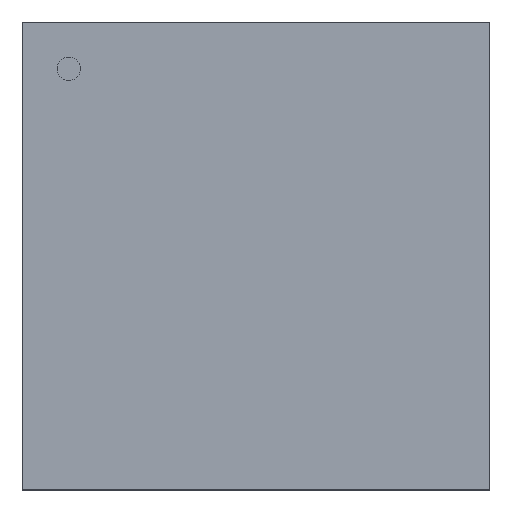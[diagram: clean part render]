
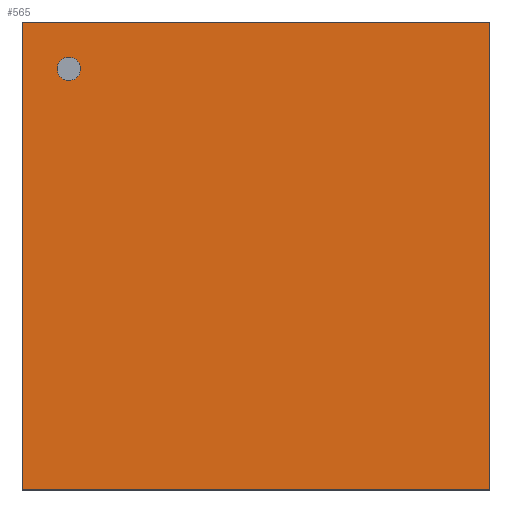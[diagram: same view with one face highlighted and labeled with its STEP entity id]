
A CAD part, top view. The second image highlights one B-rep face of the part: STEP entity #565.
In plain terms, the highlighted planar face has unit normal (0, 0, 1).
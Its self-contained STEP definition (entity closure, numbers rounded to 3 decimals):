
#341=CARTESIAN_POINT('',(0.419,-0.419,0.356));
#340=VERTEX_POINT('',#341);
#351=CARTESIAN_POINT('',(-0.419,-0.419,0.356));
#350=VERTEX_POINT('',#351);
#349=EDGE_CURVE('',#350,#340,#354,.T.);
#354=LINE('',#351,#356);
#356=VECTOR('',#357,0.838);
#357=DIRECTION('',(1.0,0.0,0.0));
#390=CARTESIAN_POINT('',(0.419,0.419,0.356));
#389=VERTEX_POINT('',#390);
#398=EDGE_CURVE('',#340,#389,#403,.T.);
#403=LINE('',#341,#405);
#405=VECTOR('',#406,0.838);
#406=DIRECTION('',(0.0,1.0,0.0));
#439=CARTESIAN_POINT('',(-0.419,0.419,0.356));
#438=VERTEX_POINT('',#439);
#447=EDGE_CURVE('',#389,#438,#452,.T.);
#452=LINE('',#390,#454);
#454=VECTOR('',#455,0.838);
#455=DIRECTION('',(-1.0,0.0,0.0));
#496=EDGE_CURVE('',#438,#350,#501,.T.);
#501=LINE('',#439,#503);
#503=VECTOR('',#504,0.838);
#504=DIRECTION('',(0.0,-1.0,0.0));
#565=ADVANCED_FACE('',(#571),#566,.T.);
#566=PLANE('',#567);
#567=AXIS2_PLACEMENT_3D('',#568,#569,#570);
#568=CARTESIAN_POINT('',(-0.419,-0.419,0.356));
#569=DIRECTION('',(0.0,0.0,1.0));
#570=DIRECTION('',(0.,1.,0.));
#571=FACE_OUTER_BOUND('',#572,.T.);
#572=EDGE_LOOP('',(#573,#583,#593,#603));
#573=ORIENTED_EDGE('',*,*,#349,.T.);
#583=ORIENTED_EDGE('',*,*,#398,.T.);
#593=ORIENTED_EDGE('',*,*,#447,.T.);
#603=ORIENTED_EDGE('',*,*,#496,.T.);
